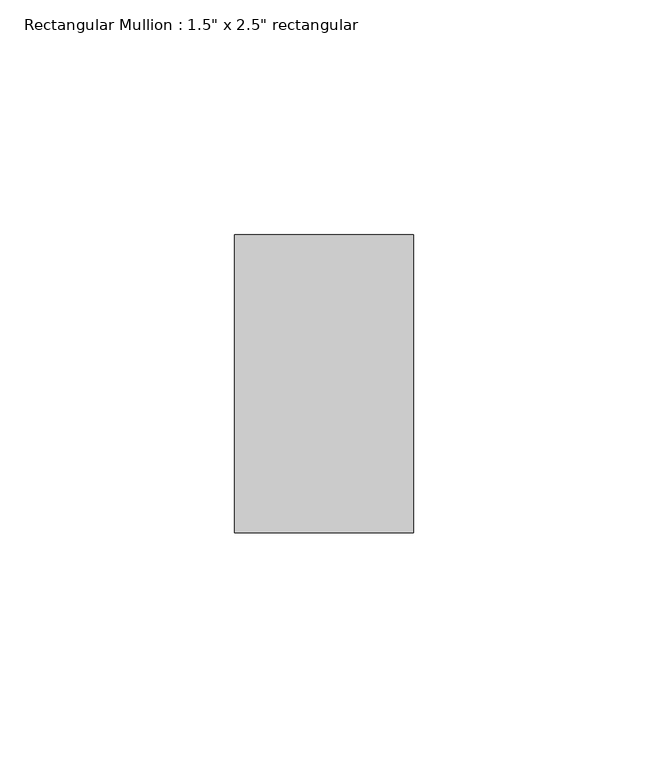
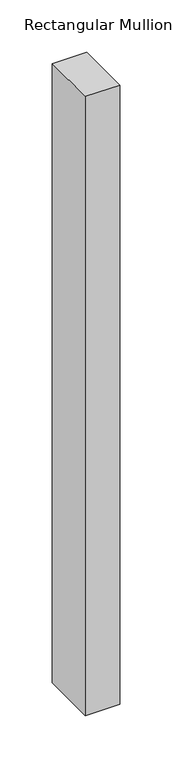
"""IFC4 building model written with IfcOpenShell, lengths in millimetres: member geometry."""

from ifc_helpers import new_model, si_unit, frame, origin, place, context, project, spatial, polyline, outline, extrude, source, transform, mapped, element, save


def member_71fe8ef3(model_context):
    return source(origin(), model_context, "Body", "SweptSolid", [
        extrude(outline(polyline([(0.0, 31.75), (0.0, -31.75), (-38.1, -31.75), (-38.1, 31.75), (0.0, 31.75)])), frame((0.0, 0.0, -724.9044454), z_axis=(0.0, 0.0, 1.0), x_axis=(1.0, 0.0, 0.0)), (0.0, 0.0, 1.0), 724.9044454),
    ])


if __name__ == "__main__":
    model = new_model("IFC4")
    model_context = context("Model", 3, world=origin())
    ifc_project = project(units=[si_unit("LENGTHUNIT", "METRE", prefix="MILLI")], contexts=[model_context])
    site = spatial("IfcSite", under=ifc_project)
    building = spatial("IfcBuilding", under=site)
    placement = place(None, origin())
    member_shape = member_71fe8ef3(model_context)
    element("IfcMember", 1, ObjectType="Rectangular Mullion : 1.5\" x 2.5\" rectangular", at=placement, inside=building, context=model_context, shape_type="MappedRepresentation", body=[
        mapped(member_shape, transform((0.0, 0.0, 0.0), x_axis=(1.0, 0.0, 0.0), y_axis=(0.0, 1.0, 0.0), z_axis=(0.0, 0.0, 1.0))),
    ])
    save(model, "model.ifc")
